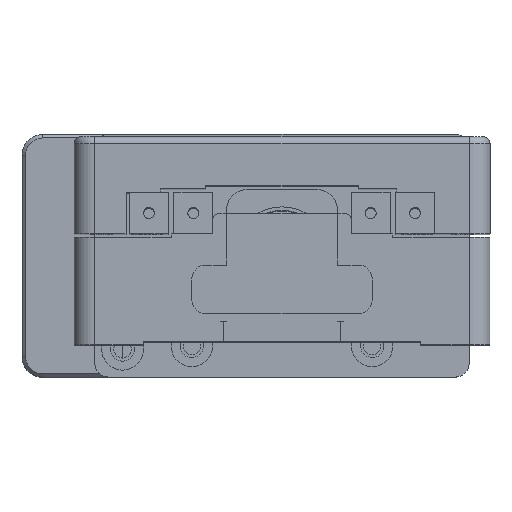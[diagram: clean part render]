
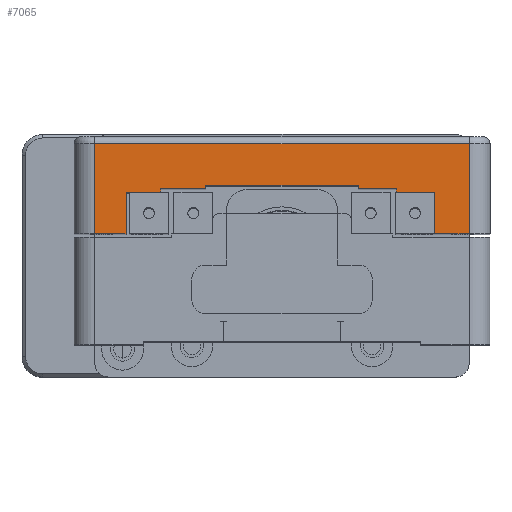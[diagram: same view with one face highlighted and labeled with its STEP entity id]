
A CAD part, top view. The second image highlights one B-rep face of the part: STEP entity #7065.
In plain terms, the highlighted planar face has unit normal (0, 0, 1).
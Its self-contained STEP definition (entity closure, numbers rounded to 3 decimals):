
#199 = CARTESIAN_POINT ( 'NONE',  ( -21.429, -0.338, 34.08 ) ) ;
#355 = CARTESIAN_POINT ( 'NONE',  ( -9.929, 6.662, 34.08 ) ) ;
#454 = DIRECTION ( 'NONE',  ( -1., 0., 0. ) ) ;
#460 = CARTESIAN_POINT ( 'NONE',  ( 12.071, 6.162, 34.08 ) ) ;
#591 = DIRECTION ( 'NONE',  ( 0., 1., 0. ) ) ;
#744 = EDGE_CURVE ( 'NONE', #11531, #1262, #12777, .T. ) ;
#837 = VECTOR ( 'NONE', #13088, 1000. ) ;
#1019 = CARTESIAN_POINT ( 'NONE',  ( -16.429, 6.162, 34.08 ) ) ;
#1126 = VERTEX_POINT ( 'NONE', #15772 ) ;
#1166 = VERTEX_POINT ( 'NONE', #13890 ) ;
#1262 = VERTEX_POINT ( 'NONE', #23669 ) ;
#1275 = DIRECTION ( 'NONE',  ( 0., 1., 0. ) ) ;
#1343 = DIRECTION ( 'NONE',  ( 0., -1., 0. ) ) ;
#1514 = LINE ( 'NONE', #10945, #12091 ) ;
#1648 = CARTESIAN_POINT ( 'NONE',  ( -21.429, -0.338, 34.08 ) ) ;
#2095 = VERTEX_POINT ( 'NONE', #22867 ) ;
#2166 = EDGE_CURVE ( 'NONE', #7279, #19086, #18088, .T. ) ;
#2836 = LINE ( 'NONE', #18730, #22472 ) ;
#3050 = DIRECTION ( 'NONE',  ( 1., 0., 0. ) ) ;
#3112 = VECTOR ( 'NONE', #591, 1000. ) ;
#3218 = CARTESIAN_POINT ( 'NONE',  ( -16.429, 5.662, 34.08 ) ) ;
#3856 = DIRECTION ( 'NONE',  ( 1., 0., 0. ) ) ;
#3918 = VERTEX_POINT ( 'NONE', #15879 ) ;
#4031 = ORIENTED_EDGE ( 'NONE', *, *, #4123, .T. ) ;
#4070 = LINE ( 'NONE', #460, #23392 ) ;
#4123 = EDGE_CURVE ( 'NONE', #1126, #3918, #18302, .T. ) ;
#4273 = VECTOR ( 'NONE', #9450, 1000. ) ;
#5030 = VECTOR ( 'NONE', #1275, 1000. ) ;
#5295 = LINE ( 'NONE', #7602, #12943 ) ;
#5407 = VECTOR ( 'NONE', #19861, 1000. ) ;
#5427 = VECTOR ( 'NONE', #454, 1000. ) ;
#5496 = ORIENTED_EDGE ( 'NONE', *, *, #19513, .T. ) ;
#5940 = DIRECTION ( 'NONE',  ( 0., 0., -1. ) ) ;
#5975 = LINE ( 'NONE', #22144, #19167 ) ;
#6117 = CARTESIAN_POINT ( 'NONE',  ( -28.929, 12.662, 34.08 ) ) ;
#6180 = VECTOR ( 'NONE', #3050, 1000. ) ;
#7065 = ADVANCED_FACE ( 'NONE', ( #15249 ), #7442, .F. ) ;
#7127 = ORIENTED_EDGE ( 'NONE', *, *, #9211, .T. ) ;
#7279 = VERTEX_POINT ( 'NONE', #19616 ) ;
#7364 = DIRECTION ( 'NONE',  ( 0., 1., 0. ) ) ;
#7442 = PLANE ( 'NONE',  #16086 ) ;
#7560 = VERTEX_POINT ( 'NONE', #1648 ) ;
#7602 = CARTESIAN_POINT ( 'NONE',  ( -25.929, 13.662, 34.08 ) ) ;
#8136 = ORIENTED_EDGE ( 'NONE', *, *, #20344, .T. ) ;
#8368 = CARTESIAN_POINT ( 'NONE',  ( 12.071, 6.162, 34.08 ) ) ;
#8540 = EDGE_CURVE ( 'NONE', #3918, #14878, #18952, .T. ) ;
#8779 = CARTESIAN_POINT ( 'NONE',  ( -16.429, 6.162, 34.08 ) ) ;
#9138 = VERTEX_POINT ( 'NONE', #17516 ) ;
#9211 = EDGE_CURVE ( 'NONE', #19086, #20328, #10433, .T. ) ;
#9355 = ORIENTED_EDGE ( 'NONE', *, *, #14158, .T. ) ;
#9450 = DIRECTION ( 'NONE',  ( 0., -1., 0. ) ) ;
#9941 = EDGE_LOOP ( 'NONE', ( #18113, #7127, #8136, #11116, #10576, #11777, #5496, #18658, #12086, #10421, #20821, #22149, #13805, #4031, #17046, #9355 ) ) ;
#10331 = VECTOR ( 'NONE', #3856, 1000. ) ;
#10421 = ORIENTED_EDGE ( 'NONE', *, *, #20619, .T. ) ;
#10433 = LINE ( 'NONE', #6117, #5427 ) ;
#10462 = EDGE_CURVE ( 'NONE', #7560, #11036, #5975, .T. ) ;
#10576 = ORIENTED_EDGE ( 'NONE', *, *, #10462, .T. ) ;
#10610 = CARTESIAN_POINT ( 'NONE',  ( 31.071, -0.338, 34.08 ) ) ;
#10921 = LINE ( 'NONE', #199, #10331 ) ;
#10945 = CARTESIAN_POINT ( 'NONE',  ( 17.571, 5.662, 34.08 ) ) ;
#11036 = VERTEX_POINT ( 'NONE', #17891 ) ;
#11116 = ORIENTED_EDGE ( 'NONE', *, *, #19683, .T. ) ;
#11133 = VECTOR ( 'NONE', #13775, 1000. ) ;
#11166 = CARTESIAN_POINT ( 'NONE',  ( 23.071, -0.338, 34.08 ) ) ;
#11176 = LINE ( 'NONE', #15938, #6180 ) ;
#11531 = VERTEX_POINT ( 'NONE', #8779 ) ;
#11777 = ORIENTED_EDGE ( 'NONE', *, *, #13755, .T. ) ;
#11839 = CARTESIAN_POINT ( 'NONE',  ( 28.071, 13.662, 34.08 ) ) ;
#12086 = ORIENTED_EDGE ( 'NONE', *, *, #15230, .T. ) ;
#12091 = VECTOR ( 'NONE', #1343, 1000. ) ;
#12711 = CARTESIAN_POINT ( 'NONE',  ( 28.071, 12.662, 34.08 ) ) ;
#12777 = LINE ( 'NONE', #1019, #5407 ) ;
#12922 = DIRECTION ( 'NONE',  ( 0., 1., 0. ) ) ;
#12943 = VECTOR ( 'NONE', #20763, 1000. ) ;
#13088 = DIRECTION ( 'NONE',  ( 1., 0., 0. ) ) ;
#13274 = DIRECTION ( 'NONE',  ( 0., -1., 0. ) ) ;
#13339 = EDGE_CURVE ( 'NONE', #1166, #15045, #4070, .T. ) ;
#13471 = VECTOR ( 'NONE', #14374, 1000. ) ;
#13755 = EDGE_CURVE ( 'NONE', #11036, #9138, #22526, .T. ) ;
#13775 = DIRECTION ( 'NONE',  ( 1., 0., 0. ) ) ;
#13805 = ORIENTED_EDGE ( 'NONE', *, *, #23730, .T. ) ;
#13890 = CARTESIAN_POINT ( 'NONE',  ( 12.071, 6.662, 34.08 ) ) ;
#14158 = EDGE_CURVE ( 'NONE', #14878, #7279, #23089, .T. ) ;
#14374 = DIRECTION ( 'NONE',  ( 1., 0., 0. ) ) ;
#14878 = VERTEX_POINT ( 'NONE', #22572 ) ;
#15045 = VERTEX_POINT ( 'NONE', #8368 ) ;
#15230 = EDGE_CURVE ( 'NONE', #1262, #19689, #2836, .T. ) ;
#15249 = FACE_OUTER_BOUND ( 'NONE', #9941, .T. ) ;
#15772 = CARTESIAN_POINT ( 'NONE',  ( 17.571, 5.662, 34.08 ) ) ;
#15879 = CARTESIAN_POINT ( 'NONE',  ( 23.071, 5.662, 34.08 ) ) ;
#15938 = CARTESIAN_POINT ( 'NONE',  ( 12.071, 6.662, 34.08 ) ) ;
#16086 = AXIS2_PLACEMENT_3D ( 'NONE', #20443, #5940, #16532 ) ;
#16532 = DIRECTION ( 'NONE',  ( -1., 0., 0. ) ) ;
#16614 = DIRECTION ( 'NONE',  ( 1., 0., 0. ) ) ;
#16699 = CARTESIAN_POINT ( 'NONE',  ( 23.071, 5.662, 34.08 ) ) ;
#17046 = ORIENTED_EDGE ( 'NONE', *, *, #8540, .T. ) ;
#17410 = VECTOR ( 'NONE', #16614, 1000. ) ;
#17516 = CARTESIAN_POINT ( 'NONE',  ( -16.429, 5.662, 34.08 ) ) ;
#17815 = CARTESIAN_POINT ( 'NONE',  ( 17.571, 6.162, 34.08 ) ) ;
#17891 = CARTESIAN_POINT ( 'NONE',  ( -21.429, 5.662, 34.08 ) ) ;
#18088 = LINE ( 'NONE', #11839, #3112 ) ;
#18113 = ORIENTED_EDGE ( 'NONE', *, *, #2166, .T. ) ;
#18302 = LINE ( 'NONE', #16699, #17410 ) ;
#18396 = VERTEX_POINT ( 'NONE', #17815 ) ;
#18658 = ORIENTED_EDGE ( 'NONE', *, *, #744, .T. ) ;
#18730 = CARTESIAN_POINT ( 'NONE',  ( -9.929, 6.662, 34.08 ) ) ;
#18952 = LINE ( 'NONE', #11166, #4273 ) ;
#19086 = VERTEX_POINT ( 'NONE', #12711 ) ;
#19133 = CARTESIAN_POINT ( 'NONE',  ( -25.929, 12.662, 34.08 ) ) ;
#19167 = VECTOR ( 'NONE', #12922, 1000. ) ;
#19513 = EDGE_CURVE ( 'NONE', #9138, #11531, #21763, .T. ) ;
#19616 = CARTESIAN_POINT ( 'NONE',  ( 28.071, -0.338, 34.08 ) ) ;
#19683 = EDGE_CURVE ( 'NONE', #2095, #7560, #10921, .T. ) ;
#19689 = VERTEX_POINT ( 'NONE', #355 ) ;
#19861 = DIRECTION ( 'NONE',  ( 1., 0., 0. ) ) ;
#20328 = VERTEX_POINT ( 'NONE', #19133 ) ;
#20344 = EDGE_CURVE ( 'NONE', #20328, #2095, #5295, .T. ) ;
#20443 = CARTESIAN_POINT ( 'NONE',  ( -28.929, 13.662, 34.08 ) ) ;
#20619 = EDGE_CURVE ( 'NONE', #19689, #1166, #11176, .T. ) ;
#20763 = DIRECTION ( 'NONE',  ( 0., -1., 0. ) ) ;
#20821 = ORIENTED_EDGE ( 'NONE', *, *, #13339, .T. ) ;
#21480 = EDGE_CURVE ( 'NONE', #15045, #18396, #21666, .T. ) ;
#21666 = LINE ( 'NONE', #23134, #11133 ) ;
#21763 = LINE ( 'NONE', #3218, #5030 ) ;
#22144 = CARTESIAN_POINT ( 'NONE',  ( -21.429, 5.662, 34.08 ) ) ;
#22149 = ORIENTED_EDGE ( 'NONE', *, *, #21480, .T. ) ;
#22472 = VECTOR ( 'NONE', #7364, 1000. ) ;
#22526 = LINE ( 'NONE', #22619, #837 ) ;
#22572 = CARTESIAN_POINT ( 'NONE',  ( 23.071, -0.338, 34.08 ) ) ;
#22619 = CARTESIAN_POINT ( 'NONE',  ( -21.429, 5.662, 34.08 ) ) ;
#22867 = CARTESIAN_POINT ( 'NONE',  ( -25.929, -0.338, 34.08 ) ) ;
#23089 = LINE ( 'NONE', #10610, #13471 ) ;
#23134 = CARTESIAN_POINT ( 'NONE',  ( 17.571, 6.162, 34.08 ) ) ;
#23392 = VECTOR ( 'NONE', #13274, 1000. ) ;
#23669 = CARTESIAN_POINT ( 'NONE',  ( -9.929, 6.162, 34.08 ) ) ;
#23730 = EDGE_CURVE ( 'NONE', #18396, #1126, #1514, .T. ) ;
